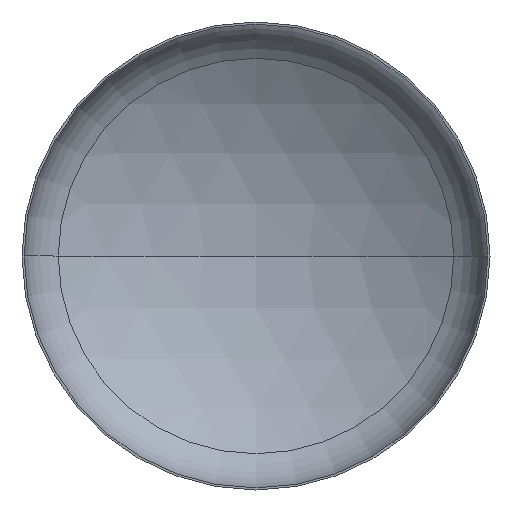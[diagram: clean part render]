
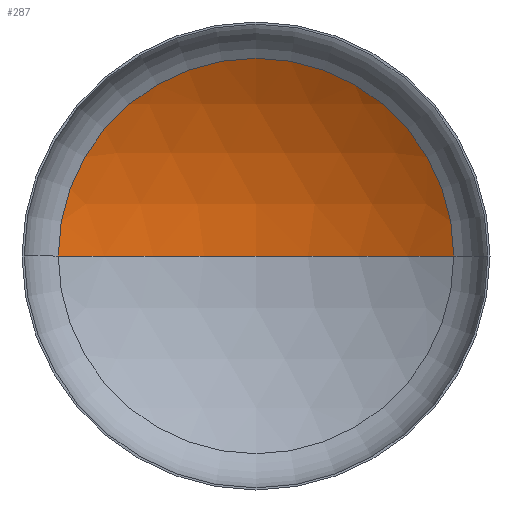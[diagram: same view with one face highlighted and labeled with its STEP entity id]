
A CAD part, front view. The second image highlights one B-rep face of the part: STEP entity #287.
In plain terms, the highlighted spherical face has radius 1760 mm.
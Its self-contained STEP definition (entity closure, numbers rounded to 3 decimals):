
#32 = ORIENTED_EDGE ( 'NONE', *, *, #194, .T. ) ;
#47 = FACE_OUTER_BOUND ( 'NONE', #162, .T. ) ;
#66 = AXIS2_PLACEMENT_3D ( 'NONE', #192, #110, #199 ) ;
#80 = AXIS2_PLACEMENT_3D ( 'NONE', #257, #255, #211 ) ;
#88 = AXIS2_PLACEMENT_3D ( 'NONE', #268, #285, #282 ) ;
#92 = AXIS2_PLACEMENT_3D ( 'NONE', #237, #232, #235 ) ;
#93 = CIRCLE ( 'NONE', #80, 1760. ) ;
#107 = VERTEX_POINT ( 'NONE', #340 ) ;
#110 = DIRECTION ( 'NONE',  ( 0., 0., -1. ) ) ;
#152 = ORIENTED_EDGE ( 'NONE', *, *, #196, .T. ) ;
#155 = ORIENTED_EDGE ( 'NONE', *, *, #200, .F. ) ;
#162 = EDGE_LOOP ( 'NONE', ( #155, #152, #32 ) ) ;
#175 = VERTEX_POINT ( 'NONE', #314 ) ;
#191 = CARTESIAN_POINT ( 'NONE',  ( -929.577, 318.707, 0. ) ) ;
#192 = CARTESIAN_POINT ( 'NONE',  ( 0., -1175.778, 0. ) ) ;
#194 = EDGE_CURVE ( 'NONE', #175, #304, #276, .T. ) ;
#196 = EDGE_CURVE ( 'NONE', #107, #175, #218, .T. ) ;
#199 = DIRECTION ( 'NONE',  ( -1., 0., 0. ) ) ;
#200 = EDGE_CURVE ( 'NONE', #107, #304, #93, .T. ) ;
#211 = DIRECTION ( 'NONE',  ( 1., 0., 0. ) ) ;
#218 = CIRCLE ( 'NONE', #88, 1760. ) ;
#232 = DIRECTION ( 'NONE',  ( 0., -1., 0. ) ) ;
#235 = DIRECTION ( 'NONE',  ( 1., 0., 0. ) ) ;
#237 = CARTESIAN_POINT ( 'NONE',  ( 0., 318.707, 0. ) ) ;
#255 = DIRECTION ( 'NONE',  ( 0., 0., 1. ) ) ;
#257 = CARTESIAN_POINT ( 'NONE',  ( 0., -1175.778, 0. ) ) ;
#268 = CARTESIAN_POINT ( 'NONE',  ( 0., -1175.778, 0. ) ) ;
#276 = CIRCLE ( 'NONE', #92, 929.577 ) ;
#282 = DIRECTION ( 'NONE',  ( -1., 0., 0. ) ) ;
#285 = DIRECTION ( 'NONE',  ( 0., 0., -1. ) ) ;
#287 = ADVANCED_FACE ( 'NONE', ( #47 ), #376, .F. ) ;
#304 = VERTEX_POINT ( 'NONE', #191 ) ;
#314 = CARTESIAN_POINT ( 'NONE',  ( 929.577, 318.707, 0. ) ) ;
#340 = CARTESIAN_POINT ( 'NONE',  ( 0., 584.222, 0. ) ) ;
#376 = SPHERICAL_SURFACE ( 'NONE', #66, 1760. ) ;
